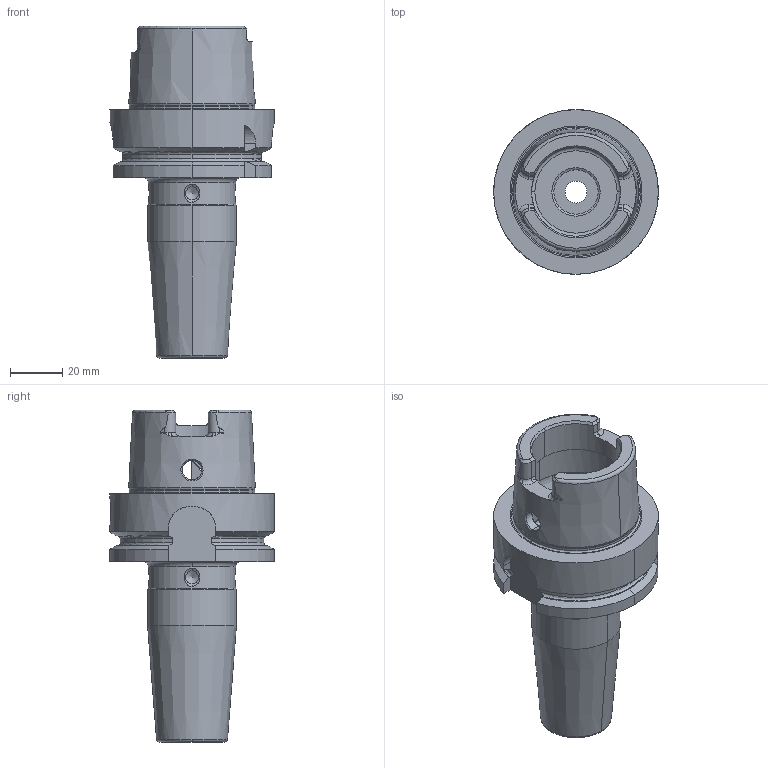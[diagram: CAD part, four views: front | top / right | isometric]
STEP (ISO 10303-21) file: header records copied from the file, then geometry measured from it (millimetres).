
FILE_DESCRIPTION(('STEP AP214'),'1');
FILE_NAME('cctmp_C0EFB62F-8972-4C33-B876-94D508F0E87F_2020_10_19_10_08_19_0637..stp','2020-10-19T08:08:19',('Meusburger Georg GmbH & Co KG'),('CADClick - www.CADClick.com'),'Spatial InterOp 3D',' ','unknown authorization');
FILE_SCHEMA(('AUTOMOTIVE_DESIGN { 1 0 10303 214 1 1 1 1 }'));
Length unit declared in the file: millimetre
Products named in the file (2): HWZ 1167_HSK-A 63_16_95; HWZ 1167_HSK-A 63_16_95_1
Assembly tree (1 placements, depth 2):
  HWZ 1167_HSK-A 63_16_95
    HWZ 1167_HSK-A 63_16_95_1
Bounding box: 63 x 63 x 127 mm (x, y, z)
Volume: 123521.1 mm3; surface area: 32355.6 mm2
Topology: 1 solids, 1 shells, 201 faces, 538 edges, 341 vertices
Faces by surface type: cylinder 67, cone 49, plane 44, torus 34, bspline 7
Entity records: 9111 total; most frequent: CARTESIAN_POINT 2542, ORIENTED_EDGE 1056, DIRECTION 1049, EDGE_CURVE 528, AXIS2_PLACEMENT_3D 440, VERTEX_POINT 338, CIRCLE 240, EDGE_LOOP 214
